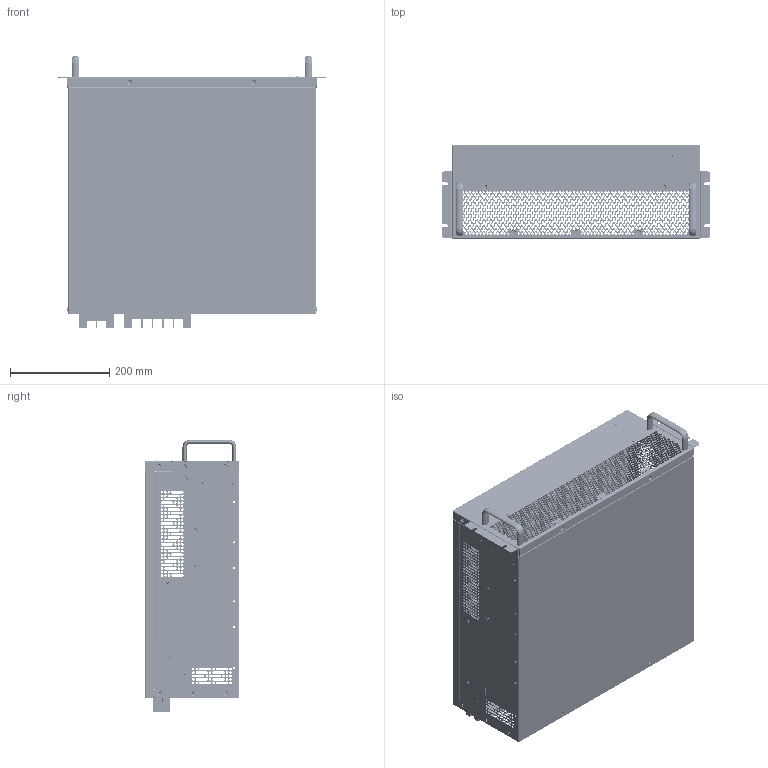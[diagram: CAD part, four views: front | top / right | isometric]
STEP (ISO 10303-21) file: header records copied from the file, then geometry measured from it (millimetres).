
FILE_DESCRIPTION (( 'STEP AP203' ), '1' );
FILE_NAME ('100A儂殤拸そ.STEP', '2024-01-31T01:19:40', ( '' ), ( '' ), 'SwSTEP 2.0', 'SolidWorks 2020', '' );
FILE_SCHEMA (( 'CONFIG_CONTROL_DESIGN' ));
Length unit declared in the file: millimetre
Products named in the file (21): S-M6-2-ZC; ﾁ羮1^ｿﾜ; 錨璃5^拸そ裔啣; 拸そ裔啣; 錨璃4^族境ヶ醱啣; 噩砃境嫉; 5弇100A傷赽; S-M4-2-ZC; 境嫉; 遺殤; BSO-3.5M4-12.5; 100A儂殤拸そ; GBT819.1_M4X8; 綴醱啣; 16X38參_笢陑擒100; 100A儂眊郪蚾_儂殤拸そ; 族境ヶ醱啣; 珘儒DMT48270C043-15WTZ1; 腑啣; 錨璃2^綴醱啣; 2弇100A傷赽
Assembly tree (75 placements, depth 4):
  100A儂殤拸そ
    100A儂眊郪蚾_儂殤拸そ
      遺殤
        ﾁ羮1^ｿﾜ
        S-M4-2-ZC  x12
      綴醱啣
        錨璃2^綴醱啣
        BSO-3.5M4-12.5  x4
        S-M6-2-ZC  x2
      族境ヶ醱啣
        錨璃4^族境ヶ醱啣
      拸そ裔啣
        錨璃5^拸そ裔啣
      境嫉
      噩砃境嫉
      16X38參_笢陑擒100  x2
      GBT819.1_M4X8  x40
    5弇100A傷赽
    珘儒DMT48270C043-15WTZ1
    腑啣
    2弇100A傷赽
Bounding box: 540 x 190 x 549.43 mm (x, y, z)
Volume: 1521818.6 mm3; surface area: 1844764.6 mm2
Topology: 70 solids, 70 shells, 15409 faces, 45176 edges, 29970 vertices
Faces by surface type: plane 13472, cylinder 1161, cone 484, bspline 288, torus 4
Entity records: 466472 total; most frequent: CARTESIAN_POINT 83457, ORIENTED_EDGE 81560, DIRECTION 70217, EDGE_CURVE 40780, LINE 38657, VECTOR 38657, VERTEX_POINT 27094, EDGE_LOOP 18482
